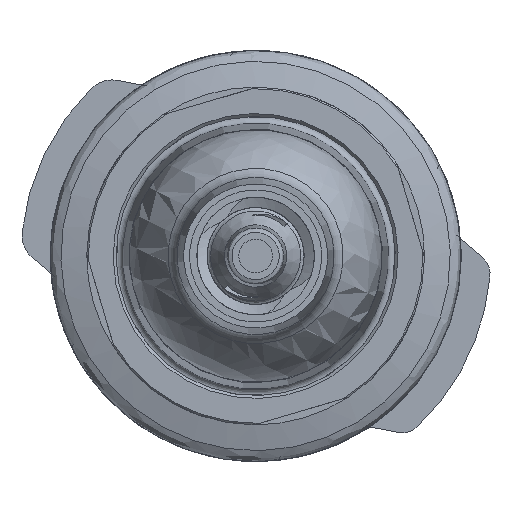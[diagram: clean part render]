
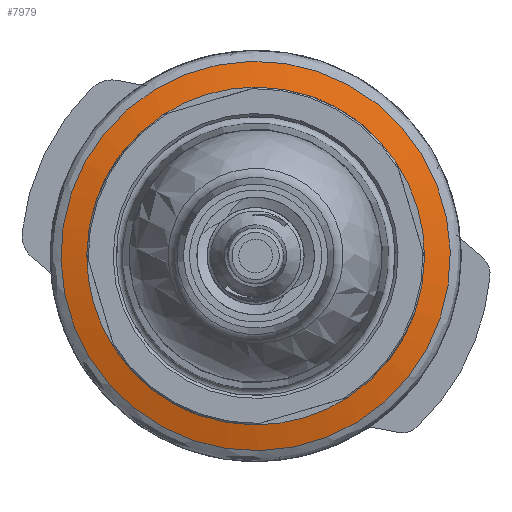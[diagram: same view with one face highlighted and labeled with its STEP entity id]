
A CAD part, left-side view. The second image highlights one B-rep face of the part: STEP entity #7979.
In plain terms, the highlighted conical face has half-angle 75 degrees and reference radius 13.259 mm.
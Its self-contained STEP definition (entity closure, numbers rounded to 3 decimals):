
#208 = DIRECTION ( 'NONE',  ( 0., -0.878, -0.478 ) ) ;
#329 = VERTEX_POINT ( 'NONE', #3835 ) ;
#754 = EDGE_CURVE ( 'NONE', #3534, #11549, #10798, .T. ) ;
#883 = VERTEX_POINT ( 'NONE', #10795 ) ;
#910 = CIRCLE ( 'NONE', #2459, 11.5 ) ;
#952 = ORIENTED_EDGE ( 'NONE', *, *, #4394, .T. ) ;
#999 = ORIENTED_EDGE ( 'NONE', *, *, #7357, .F. ) ;
#1070 = AXIS2_PLACEMENT_3D ( 'NONE', #8458, #9365, #2028 ) ;
#1114 = AXIS2_PLACEMENT_3D ( 'NONE', #3278, #6204, #7373 ) ;
#1149 = AXIS2_PLACEMENT_3D ( 'NONE', #6730, #10960, #3417 ) ;
#1296 = DIRECTION ( 'NONE',  ( -1., 0., 0. ) ) ;
#1701 = DIRECTION ( 'NONE',  ( -1., 0., 0. ) ) ;
#1774 = DIRECTION ( 'NONE',  ( 0., -0.878, -0.478 ) ) ;
#2028 = DIRECTION ( 'NONE',  ( 0., 0.878, 0.478 ) ) ;
#2338 = EDGE_LOOP ( 'NONE', ( #11469, #3240, #4023, #8137, #999, #11646, #12247, #952 ) ) ;
#2459 = AXIS2_PLACEMENT_3D ( 'NONE', #9754, #1296, #5535 ) ;
#2486 = VERTEX_POINT ( 'NONE', #3872 ) ;
#2599 = DIRECTION ( 'NONE',  ( 0., 0.878, 0.478 ) ) ;
#3164 = CIRCLE ( 'NONE', #1149, 11.5 ) ;
#3240 = ORIENTED_EDGE ( 'NONE', *, *, #754, .F. ) ;
#3278 = CARTESIAN_POINT ( 'NONE',  ( -63.928, 6.981, 109.7 ) ) ;
#3320 = VERTEX_POINT ( 'NONE', #12935 ) ;
#3417 = DIRECTION ( 'NONE',  ( 0., -0.878, -0.478 ) ) ;
#3534 = VERTEX_POINT ( 'NONE', #12452 ) ;
#3772 = DIRECTION ( 'NONE',  ( 1., 0., 0. ) ) ;
#3835 = CARTESIAN_POINT ( 'NONE',  ( -63.928, 7.089, 98.201 ) ) ;
#3872 = CARTESIAN_POINT ( 'NONE',  ( -63.928, 18.481, 109.808 ) ) ;
#3912 = VERTEX_POINT ( 'NONE', #6741 ) ;
#4023 = ORIENTED_EDGE ( 'NONE', *, *, #5837, .F. ) ;
#4027 = AXIS2_PLACEMENT_3D ( 'NONE', #12723, #7451, #2599 ) ;
#4262 = EDGE_CURVE ( 'NONE', #883, #2486, #4652, .T. ) ;
#4394 = EDGE_CURVE ( 'NONE', #12676, #3912, #10849, .T. ) ;
#4652 = CIRCLE ( 'NONE', #12413, 11.5 ) ;
#4700 = CIRCLE ( 'NONE', #11742, 11.5 ) ;
#4720 = CARTESIAN_POINT ( 'NONE',  ( -63.928, 6.981, 109.7 ) ) ;
#4740 = EDGE_CURVE ( 'NONE', #12676, #2486, #910, .T. ) ;
#4910 = FACE_BOUND ( 'NONE', #2338, .T. ) ;
#5244 = DIRECTION ( 'NONE',  ( 1., 0., 0. ) ) ;
#5286 = EDGE_CURVE ( 'NONE', #6269, #6269, #7108, .T. ) ;
#5348 = AXIS2_PLACEMENT_3D ( 'NONE', #11186, #1701, #1774 ) ;
#5535 = DIRECTION ( 'NONE',  ( 0., -0.878, -0.478 ) ) ;
#5837 = EDGE_CURVE ( 'NONE', #3320, #3534, #3164, .T. ) ;
#5941 = FACE_OUTER_BOUND ( 'NONE', #10592, .T. ) ;
#6204 = DIRECTION ( 'NONE',  ( 1., 0., 0. ) ) ;
#6239 = CONICAL_SURFACE ( 'NONE', #12211, 13.259, 1.309 ) ;
#6269 = VERTEX_POINT ( 'NONE', #7559 ) ;
#6416 = CARTESIAN_POINT ( 'NONE',  ( -63.456, 6.981, 109.7 ) ) ;
#6730 = CARTESIAN_POINT ( 'NONE',  ( -63.928, 6.981, 109.7 ) ) ;
#6741 = CARTESIAN_POINT ( 'NONE',  ( -63.928, 6.873, 121.199 ) ) ;
#6775 = EDGE_CURVE ( 'NONE', #11549, #3912, #7776, .T. ) ;
#7015 = CARTESIAN_POINT ( 'NONE',  ( -63.928, 6.981, 109.7 ) ) ;
#7035 = DIRECTION ( 'NONE',  ( 0., 0.878, 0.478 ) ) ;
#7108 = CIRCLE ( 'NONE', #4027, 13.259 ) ;
#7357 = EDGE_CURVE ( 'NONE', #883, #329, #11103, .T. ) ;
#7373 = DIRECTION ( 'NONE',  ( 0., 0.878, 0.478 ) ) ;
#7451 = DIRECTION ( 'NONE',  ( -1., 0., 0. ) ) ;
#7559 = CARTESIAN_POINT ( 'NONE',  ( -63.456, 18.624, 116.043 ) ) ;
#7647 = ORIENTED_EDGE ( 'NONE', *, *, #5286, .T. ) ;
#7776 = CIRCLE ( 'NONE', #5348, 11.5 ) ;
#7910 = EDGE_CURVE ( 'NONE', #3320, #329, #4700, .T. ) ;
#7979 = ADVANCED_FACE ( 'NONE', ( #5941, #4910 ), #6239, .T. ) ;
#7997 = DIRECTION ( 'NONE',  ( 0., 0.878, 0.478 ) ) ;
#8137 = ORIENTED_EDGE ( 'NONE', *, *, #7910, .T. ) ;
#8458 = CARTESIAN_POINT ( 'NONE',  ( -63.928, 6.981, 109.7 ) ) ;
#8669 = CARTESIAN_POINT ( 'NONE',  ( -63.928, -2.622, 116.027 ) ) ;
#9365 = DIRECTION ( 'NONE',  ( -1., 0., 0. ) ) ;
#9754 = CARTESIAN_POINT ( 'NONE',  ( -63.928, 6.981, 109.7 ) ) ;
#10592 = EDGE_LOOP ( 'NONE', ( #7647 ) ) ;
#10658 = AXIS2_PLACEMENT_3D ( 'NONE', #4720, #10742, #208 ) ;
#10684 = CARTESIAN_POINT ( 'NONE',  ( -63.928, 13.308, 119.303 ) ) ;
#10742 = DIRECTION ( 'NONE',  ( -1., 0., 0. ) ) ;
#10795 = CARTESIAN_POINT ( 'NONE',  ( -63.928, 16.584, 103.373 ) ) ;
#10798 = CIRCLE ( 'NONE', #1070, 11.5 ) ;
#10849 = CIRCLE ( 'NONE', #1114, 11.5 ) ;
#10960 = DIRECTION ( 'NONE',  ( -1., 0., 0. ) ) ;
#11103 = CIRCLE ( 'NONE', #10658, 11.5 ) ;
#11186 = CARTESIAN_POINT ( 'NONE',  ( -63.928, 6.981, 109.7 ) ) ;
#11469 = ORIENTED_EDGE ( 'NONE', *, *, #6775, .F. ) ;
#11544 = DIRECTION ( 'NONE',  ( 0., 0.878, 0.478 ) ) ;
#11549 = VERTEX_POINT ( 'NONE', #8669 ) ;
#11646 = ORIENTED_EDGE ( 'NONE', *, *, #4262, .T. ) ;
#11742 = AXIS2_PLACEMENT_3D ( 'NONE', #12381, #12253, #7035 ) ;
#12211 = AXIS2_PLACEMENT_3D ( 'NONE', #6416, #5244, #11544 ) ;
#12247 = ORIENTED_EDGE ( 'NONE', *, *, #4740, .F. ) ;
#12253 = DIRECTION ( 'NONE',  ( 1., 0., 0. ) ) ;
#12381 = CARTESIAN_POINT ( 'NONE',  ( -63.928, 6.981, 109.7 ) ) ;
#12413 = AXIS2_PLACEMENT_3D ( 'NONE', #7015, #3772, #7997 ) ;
#12452 = CARTESIAN_POINT ( 'NONE',  ( -63.928, -4.518, 109.592 ) ) ;
#12676 = VERTEX_POINT ( 'NONE', #10684 ) ;
#12723 = CARTESIAN_POINT ( 'NONE',  ( -63.456, 6.981, 109.7 ) ) ;
#12935 = CARTESIAN_POINT ( 'NONE',  ( -63.928, 0.654, 100.097 ) ) ;
